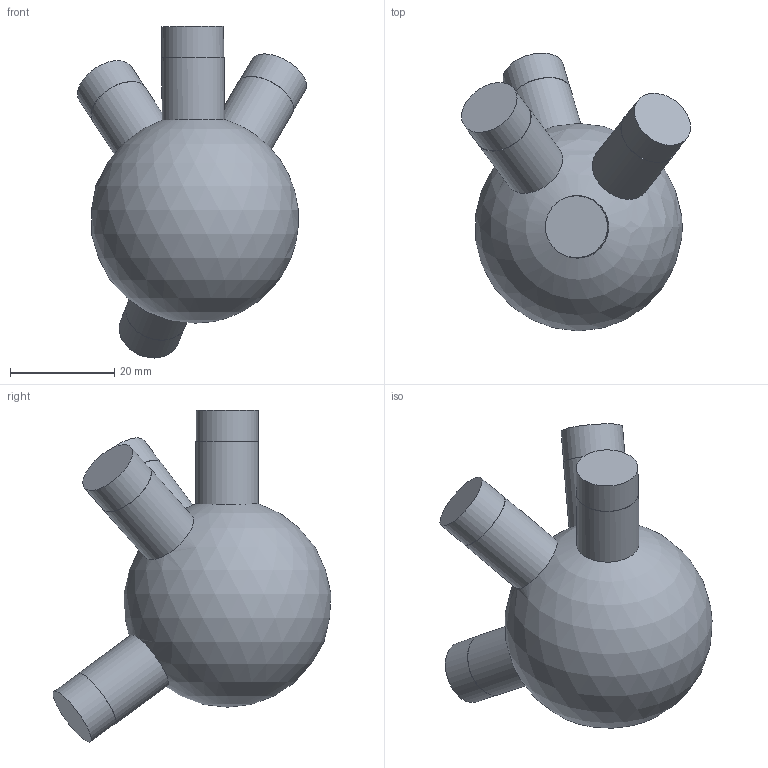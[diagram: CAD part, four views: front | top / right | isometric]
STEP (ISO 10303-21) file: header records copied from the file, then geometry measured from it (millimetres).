
FILE_DESCRIPTION(('Open CASCADE Model'),'2;1');
FILE_NAME('Open CASCADE Shape Model','2026-10-21T12:47:57',('Author'),( 'Open CASCADE'),'Open CASCADE STEP processor 7.9','Open CASCADE 7.9' ,'Unknown');
FILE_SCHEMA(('AUTOMOTIVE_DESIGN { 1 0 10303 214 1 1 1 1 }'));
Length unit declared in the file: millimetre
Products named in the file (1): Open CASCADE STEP translator 7.9 79
Bounding box: 43.97 x 53.38 x 63.78 mm (x, y, z)
Volume: 41792 mm3; surface area: 7853.9 mm2
Topology: 1 solids, 1 shells, 17 faces, 27 edges, 18 vertices
Faces by surface type: cylinder 8, plane 8, sphere 1
Full cylindrical faces by diameter (mm): 11.9 x4, 12 x4
Entity records: 965 total; most frequent: CARTESIAN_POINT 347, DIRECTION 127, ORIENTED_EDGE 52, PCURVE 52, DEFINITIONAL_REPRESENTATION 52, LINE 43, VECTOR 43, AXIS2_PLACEMENT_3D 36
